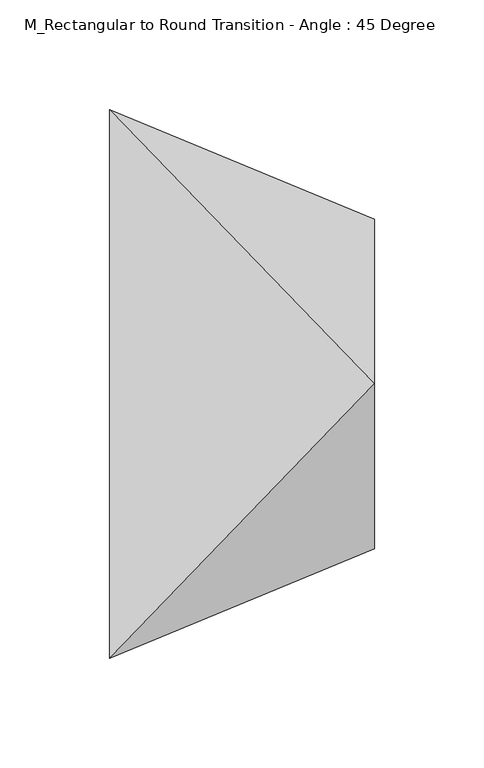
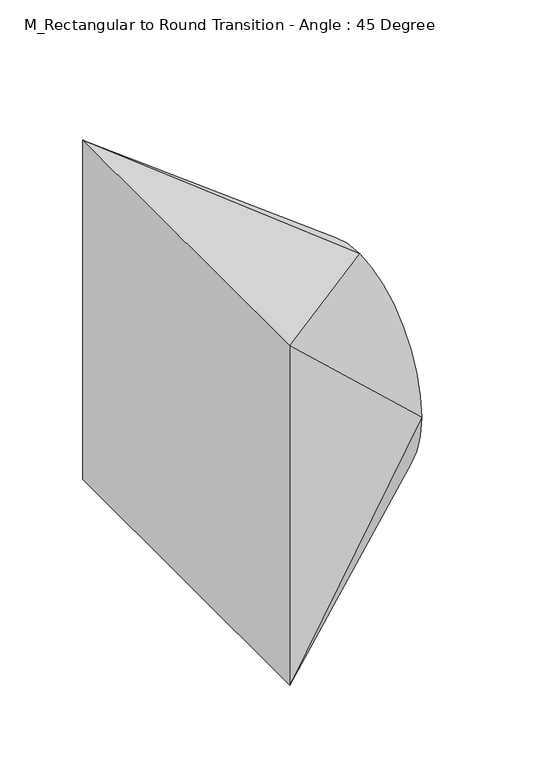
"""IFC4 building model written with IfcOpenShell, lengths in millimetres: duct fitting geometry, M_Rectangular to Round Transition - Angle : 45 Degree."""

from ifc_helpers import new_model, si_unit, frame, origin, place, context, project, spatial, circle_curve, source, transform, mapped, element, save
from ifc_brep_helpers import plane_surface, spline_surface, advanced_brep


def m_rectangular_to_round_transition_angle_45_degree_c6fe11b9(model_context):
    return source(origin(), model_context, "Body", "AdvancedBrep", [
        advanced_brep(
        [(0.0, -125.0, -125.0), (0.0, -125.0, 125.0), (0.0, 125.0, 125.0), (0.0, 125.0, -125.0), (120.7106781, -75.0, 0.0), (120.7106781, 0.0, -75.0), (120.7106781, 75.0, 0.0), (120.7106781, 0.0, 75.0)],
        [
            (0, 1),
            (1, 2),
            (2, 3),
            (3, 0),
            (4, 5, circle_curve(frame((120.7106781, 0.0, 0.0), z_axis=(1.0, 0.0, 0.0), x_axis=(0.0, -1.0, 0.0)), 75.0)),
            (5, 6, circle_curve(frame((120.7106781, 0.0, 0.0), z_axis=(1.0, 0.0, 0.0), x_axis=(0.0, -1.0, 0.0)), 75.0)),
            (6, 7, circle_curve(frame((120.7106781, 0.0, 0.0), z_axis=(1.0, 0.0, 0.0), x_axis=(0.0, -1.0, 0.0)), 75.0)),
            (7, 4, circle_curve(frame((120.7106781, 0.0, 0.0), z_axis=(1.0, 0.0, 0.0), x_axis=(0.0, -1.0, 0.0)), 75.0)),
            (0, 4),
            (4, 1),
            (7, 1),
            (7, 2),
            (6, 2),
            (6, 3),
            (5, 3),
            (5, 0),
        ],
        [
            plane_surface(frame((0.0, 0.0, 0.0), z_axis=(-1.0, 0.0, 0.0), x_axis=(0.0, 1.0, 0.0))),
            plane_surface(frame((120.7106781, 0.0, 0.0), z_axis=(1.0, 0.0, 0.0), x_axis=(0.0, 1.0, 0.0))),
            plane_surface(frame((120.7106781, -75.0, 0.0), z_axis=(0.38268343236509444, -0.9238795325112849, 0.0), x_axis=(0.0, 0.0, 1.0))),
            spline_surface(2, 1, [[(120.7106781, -75.0, 0.0), (0.0, -125.0, 125.0)], [(120.7106781, -75.0, 75.0), (0.0, -125.0, 125.0)], [(120.7106781, 0.0, 75.0), (0.0, -125.0, 125.0)]], [3, 3], [2, 2], [0.0, 1.0], [0.0, 1.0], weights=[[1.0, 1.0], [0.7071067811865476, 0.7071067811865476], [1.0, 1.0]]),
            plane_surface(frame((120.7106781, 0.0, 75.0), z_axis=(0.3826834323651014, 0.0, 0.923879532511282), x_axis=(0.0, 1.0, 0.0))),
            spline_surface(2, 1, [[(120.7106781, 0.0, 75.0), (0.0, 125.0, 125.0)], [(120.7106781, 75.0, 75.0), (0.0, 125.0, 125.0)], [(120.7106781, 75.0, 0.0), (0.0, 125.0, 125.0)]], [3, 3], [2, 2], [0.0, 1.0], [0.0, 1.0], weights=[[1.0, 1.0], [0.7071067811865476, 0.7071067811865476], [1.0, 1.0]]),
            plane_surface(frame((120.7106781, 75.0, 0.0), z_axis=(0.3826834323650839, 0.9238795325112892, 0.0), x_axis=(0.0, 0.0, -1.0))),
            spline_surface(2, 1, [[(120.7106781, 75.0, 0.0), (0.0, 125.0, -125.0)], [(120.7106781, 75.0, -75.0), (0.0, 125.0, -125.0)], [(120.7106781, 0.0, -75.0), (0.0, 125.0, -125.0)]], [3, 3], [2, 2], [0.0, 1.0], [0.0, 1.0], weights=[[1.0, 1.0], [0.7071067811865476, 0.7071067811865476], [1.0, 1.0]]),
            plane_surface(frame((120.7106781, 0.0, -75.0), z_axis=(0.38268343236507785, 0.0, -0.9238795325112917), x_axis=(0.0, -1.0, 0.0))),
            spline_surface(2, 1, [[(120.7106781, 0.0, -75.0), (0.0, -125.0, -125.0)], [(120.7106781, -75.0, -75.0), (0.0, -125.0, -125.0)], [(120.7106781, -75.0, 0.0), (0.0, -125.0, -125.0)]], [3, 3], [2, 2], [0.0, 1.0], [0.0, 1.0], weights=[[1.0, 1.0], [0.7071067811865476, 0.7071067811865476], [1.0, 1.0]]),
        ],
        [
            (0, [[1, 2, 3, 4]]),
            (1, [[5, 6, 7, 8]]),
            (2, [[-1, 9, 10]]),
            (3, [[-8, 11, -10]]),
            (4, [[-2, -11, 12]]),
            (5, [[-7, 13, -12]]),
            (6, [[-3, -13, 14]]),
            (7, [[-6, 15, -14]]),
            (8, [[-4, -15, 16]]),
            (9, [[-5, -9, -16]]),
        ],
    ),
        advanced_brep(
        [(0.0, -125.0, -125.0), (0.0, -125.0, 125.0), (0.0, 125.0, 125.0), (0.0, 125.0, -125.0), (120.7106781, -75.0, 0.0), (120.7106781, 0.0, -75.0), (120.7106781, 75.0, 0.0), (120.7106781, 0.0, 75.0)],
        [
            (0, 1),
            (1, 2),
            (2, 3),
            (3, 0),
            (4, 5, circle_curve(frame((120.7106781, 0.0, 0.0), z_axis=(1.0, 0.0, 0.0), x_axis=(0.0, -1.0, 0.0)), 75.0)),
            (5, 6, circle_curve(frame((120.7106781, 0.0, 0.0), z_axis=(1.0, 0.0, 0.0), x_axis=(0.0, -1.0, 0.0)), 75.0)),
            (6, 7, circle_curve(frame((120.7106781, 0.0, 0.0), z_axis=(1.0, 0.0, 0.0), x_axis=(0.0, -1.0, 0.0)), 75.0)),
            (7, 4, circle_curve(frame((120.7106781, 0.0, 0.0), z_axis=(1.0, 0.0, 0.0), x_axis=(0.0, -1.0, 0.0)), 75.0)),
            (0, 4),
            (4, 1),
            (7, 1),
            (7, 2),
            (6, 2),
            (6, 3),
            (5, 3),
            (5, 0),
        ],
        [
            plane_surface(frame((0.0, 0.0, 0.0), z_axis=(-1.0, 0.0, 0.0), x_axis=(0.0, 1.0, 0.0))),
            plane_surface(frame((120.7106781, 0.0, 0.0), z_axis=(1.0, 0.0, 0.0), x_axis=(0.0, 1.0, 0.0))),
            plane_surface(frame((120.7106781, -75.0, 0.0), z_axis=(0.3826834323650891, -0.9238795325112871, 0.0), x_axis=(0.0, 0.0, 1.0))),
            spline_surface(2, 1, [[(120.7106781, -75.0, 0.0), (0.0, -125.0, 125.0)], [(120.7106781, -75.0, 75.0), (0.0, -125.0, 125.0)], [(120.7106781, 0.0, 75.0), (0.0, -125.0, 125.0)]], [3, 3], [2, 2], [0.0, 1.0], [0.0, 1.0], weights=[[1.0, 1.0], [0.7071067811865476, 0.7071067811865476], [1.0, 1.0]]),
            plane_surface(frame((120.7106781, 0.0, 75.0), z_axis=(0.3826834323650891, 0.0, 0.9238795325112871), x_axis=(0.0, 1.0, 0.0))),
            spline_surface(2, 1, [[(120.7106781, 0.0, 75.0), (0.0, 125.0, 125.0)], [(120.7106781, 75.0, 75.0), (0.0, 125.0, 125.0)], [(120.7106781, 75.0, 0.0), (0.0, 125.0, 125.0)]], [3, 3], [2, 2], [0.0, 1.0], [0.0, 1.0], weights=[[1.0, 1.0], [0.7071067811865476, 0.7071067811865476], [1.0, 1.0]]),
            plane_surface(frame((120.7106781, 75.0, 0.0), z_axis=(0.3826834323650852, 0.9238795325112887, 0.0), x_axis=(0.0, 0.0, -1.0))),
            spline_surface(2, 1, [[(120.7106781, 75.0, 0.0), (0.0, 125.0, -125.0)], [(120.7106781, 75.0, -75.0), (0.0, 125.0, -125.0)], [(120.7106781, 0.0, -75.0), (0.0, 125.0, -125.0)]], [3, 3], [2, 2], [0.0, 1.0], [0.0, 1.0], weights=[[1.0, 1.0], [0.7071067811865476, 0.7071067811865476], [1.0, 1.0]]),
            plane_surface(frame((120.7106781, 0.0, -75.0), z_axis=(0.3826834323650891, 0.0, -0.9238795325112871), x_axis=(0.0, -1.0, 0.0))),
            spline_surface(2, 1, [[(120.7106781, 0.0, -75.0), (0.0, -125.0, -125.0)], [(120.7106781, -75.0, -75.0), (0.0, -125.0, -125.0)], [(120.7106781, -75.0, 0.0), (0.0, -125.0, -125.0)]], [3, 3], [2, 2], [0.0, 1.0], [0.0, 1.0], weights=[[1.0, 1.0], [0.7071067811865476, 0.7071067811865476], [1.0, 1.0]]),
        ],
        [
            (0, [[1, 2, 3, 4]]),
            (1, [[5, 6, 7, 8]]),
            (2, [[-1, 9, 10]]),
            (3, [[-8, 11, -10]]),
            (4, [[-2, -11, 12]]),
            (5, [[-7, 13, -12]]),
            (6, [[-3, -13, 14]]),
            (7, [[-6, 15, -14]]),
            (8, [[-4, -15, 16]]),
            (9, [[-5, -9, -16]]),
        ],
    ),
        advanced_brep(
        [(120.7106781, 0.0, 75.0), (120.7106781, -75.0, 0.0), (120.7106781, 0.0, -75.0), (120.7106781, 75.0, 0.0), (0.0, -125.0, 125.0), (0.0, 125.0, 125.0), (0.0, 125.0, -125.0), (0.0, -125.0, -125.0)],
        [
            (0, 1, circle_curve(frame((120.7106781, 0.0, 0.0), z_axis=(1.0, 0.0, 0.0), x_axis=(0.0, 1.0, 0.0)), 75.0)),
            (1, 2, circle_curve(frame((120.7106781, 0.0, 0.0), z_axis=(1.0, 0.0, 0.0), x_axis=(0.0, 1.0, 0.0)), 75.0)),
            (2, 3, circle_curve(frame((120.7106781, 0.0, 0.0), z_axis=(1.0, 0.0, 0.0), x_axis=(0.0, 1.0, 0.0)), 75.0)),
            (3, 0, circle_curve(frame((120.7106781, 0.0, 0.0), z_axis=(1.0, 0.0, 0.0), x_axis=(0.0, 1.0, 0.0)), 75.0)),
            (4, 5),
            (5, 6),
            (6, 7),
            (7, 4),
            (0, 4),
            (4, 1),
            (7, 1),
            (7, 2),
            (6, 2),
            (6, 3),
            (5, 3),
            (5, 0),
        ],
        [
            plane_surface(frame((120.7106781, 0.0, 0.0), z_axis=(1.0, 0.0, 0.0), x_axis=(0.0, 0.0, -1.0))),
            plane_surface(frame((0.0, 0.0, 0.0), z_axis=(-1.0, 0.0, 0.0), x_axis=(0.0, 0.0, -1.0))),
            spline_surface(2, 1, [[(0.0, -125.0, 125.0), (120.7106781, 0.0, 75.0)], [(0.0, -125.0, 125.0), (120.7106781, -75.0, 75.0)], [(0.0, -125.0, 125.0), (120.7106781, -75.0, 0.0)]], [3, 3], [2, 2], [0.0, 1.0], [0.0, 1.0], weights=[[1.0, 1.0], [0.7071067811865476, 0.7071067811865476], [1.0, 1.0]]),
            plane_surface(frame((0.0, -125.0, 0.0), z_axis=(0.3826834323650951, -0.9238795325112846, 0.0), x_axis=(0.0, 0.0, -1.0))),
            spline_surface(2, 1, [[(0.0, -125.0, -125.0), (120.7106781, -75.0, 0.0)], [(0.0, -125.0, -125.0), (120.7106781, -75.0, -75.0)], [(0.0, -125.0, -125.0), (120.7106781, 0.0, -75.0)]], [3, 3], [2, 2], [0.0, 1.0], [0.0, 1.0], weights=[[1.0, 1.0], [0.7071067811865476, 0.7071067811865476], [1.0, 1.0]]),
            plane_surface(frame((0.0, 0.0, -125.0), z_axis=(0.3826834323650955, 0.0, -0.9238795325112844), x_axis=(0.0, 1.0, 0.0))),
            spline_surface(2, 1, [[(0.0, 125.0, -125.0), (120.7106781, 0.0, -75.0)], [(0.0, 125.0, -125.0), (120.7106781, 75.0, -75.0)], [(0.0, 125.0, -125.0), (120.7106781, 75.0, 0.0)]], [3, 3], [2, 2], [0.0, 1.0], [0.0, 1.0], weights=[[1.0, 1.0], [0.7071067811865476, 0.7071067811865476], [1.0, 1.0]]),
            plane_surface(frame((0.0, 125.0, 0.0), z_axis=(0.3826834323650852, 0.9238795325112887, 0.0), x_axis=(0.0, 0.0, 1.0))),
            spline_surface(2, 1, [[(0.0, 125.0, 125.0), (120.7106781, 75.0, 0.0)], [(0.0, 125.0, 125.0), (120.7106781, 75.0, 75.0)], [(0.0, 125.0, 125.0), (120.7106781, 0.0, 75.0)]], [3, 3], [2, 2], [0.0, 1.0], [0.0, 1.0], weights=[[1.0, 1.0], [0.7071067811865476, 0.7071067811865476], [1.0, 1.0]]),
            plane_surface(frame((0.0, 0.0, 125.0), z_axis=(0.3826834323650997, 0.0, 0.9238795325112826), x_axis=(0.0, -1.0, 0.0))),
        ],
        [
            (0, [[1, 2, 3, 4]]),
            (1, [[5, 6, 7, 8]]),
            (2, [[-1, 9, 10]]),
            (3, [[-8, 11, -10]]),
            (4, [[-2, -11, 12]]),
            (5, [[-7, 13, -12]]),
            (6, [[-3, -13, 14]]),
            (7, [[-6, 15, -14]]),
            (8, [[-4, -15, 16]]),
            (9, [[-5, -9, -16]]),
        ],
    ),
    ])


if __name__ == "__main__":
    model = new_model("IFC4")
    model_context = context("Model", 3, world=origin())
    ifc_project = project(units=[si_unit("LENGTHUNIT", "METRE", prefix="MILLI")], contexts=[model_context])
    site = spatial("IfcSite", under=ifc_project)
    building = spatial("IfcBuilding", under=site)
    placement = place(None, origin())
    m_rectangular_to_round_transition_angle_45_degree_shape = m_rectangular_to_round_transition_angle_45_degree_c6fe11b9(model_context)
    element("IfcDuctFitting", 1, ObjectType="M_Rectangular to Round Transition - Angle : 45 Degree", at=placement, inside=building, context=model_context, shape_type="MappedRepresentation", body=[
        mapped(m_rectangular_to_round_transition_angle_45_degree_shape, transform((0.0, 0.0, 0.0), x_axis=(1.0, 0.0, 0.0), y_axis=(0.0, 1.0, 0.0), z_axis=(0.0, 0.0, 1.0))),
    ])
    save(model, "model.ifc")
